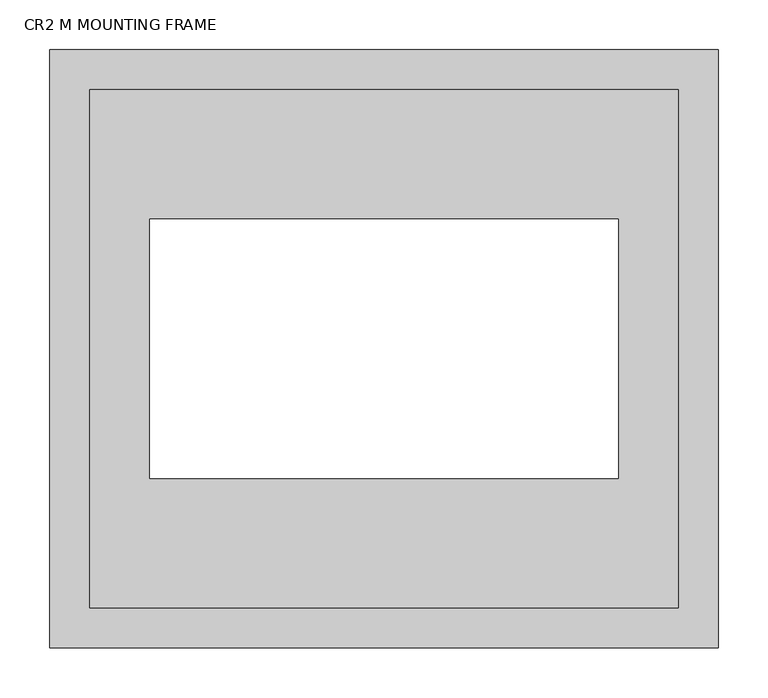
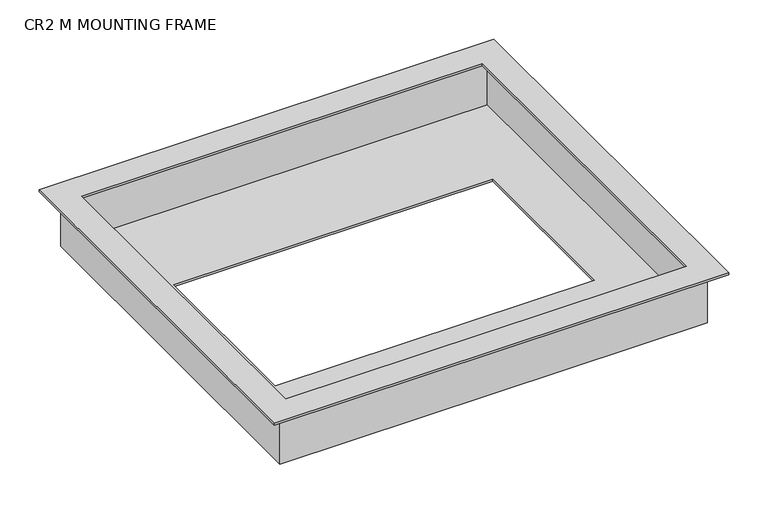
"""IFC4 building model written with IfcOpenShell, lengths in millimetres: light fixture geometry, Zumtobel CR2P MOUNTING FRAME : CR2 M MOUNTING FRAME."""

from ifc_helpers import new_model, si_unit, origin, place, context, project, spatial, faceted_brep, source, transform, mapped, element, save


def cr2_m_mounting_frame_06b28d9d(model_context):
    return source(origin(), model_context, "Body", "Brep", [
        faceted_brep([(64.5000048, -300.0, 2.9939766), (64.5000048, -300.0, 0.0), (734.5000048, -300.0, 0.0), (734.5000048, -300.0, 2.9939766), (87.5000048, -277.0, 0.0), (711.5000048, -277.0, 0.0), (711.5000048, -277.0, -77.0), (87.5000048, -277.0, -77.0), (84.5000048, -280.0, -80.0060234), (714.5000048, -280.0, -80.0060234), (714.5000048, -280.0, -77.0), (714.5000048, -280.0, 0.0), (84.5000048, -280.0, 0.0), (84.5000048, -280.0, -77.0), (734.5000048, 300.0, 0.0), (734.5000048, 300.0, 2.9939766), (711.5000048, 277.0, 0.0), (711.5000048, 277.0, -77.0), (714.5000048, 280.0, -80.0060234), (714.5000048, 280.0, -77.0), (714.5000048, 280.0, 0.0), (64.5000048, 300.0, 0.0), (64.5000048, 300.0, 2.9939766), (87.5000048, 277.0, 0.0), (87.5000048, 277.0, -77.0), (84.5000048, 280.0, -80.0060234), (84.5000048, 280.0, -77.0), (84.5000048, 280.0, 0.0), (104.5000048, -260.0, 2.9939766), (104.5000048, 260.0, 2.9939766), (694.5000048, 260.0, 2.9939766), (694.5000048, -260.0, 2.9939766), (634.5000048, 130.0, -80.0060234), (164.5000048, 130.0, -80.0060234), (164.5000048, -130.0, -80.0060234), (634.5000048, -130.0, -80.0060234), (694.5000048, -260.0, 0.0), (104.5000048, -260.0, 0.0), (694.5000048, 260.0, 0.0), (104.5000048, 260.0, 0.0), (634.5000048, 130.0, -77.0), (634.5000048, -130.0, -77.0), (164.5000048, -130.0, -77.0), (164.5000048, 130.0, -77.0)], [[[0, 1, 2, 3]], [[4, 5, 6, 7]], [[8, 9, 10, 11, 12, 13]], [[3, 2, 14, 15]], [[5, 16, 17, 6]], [[9, 18, 19, 20, 11, 10]], [[15, 14, 21, 22]], [[16, 23, 24, 17]], [[18, 25, 26, 27, 20, 19]], [[1, 0, 22, 21]], [[0, 3, 15, 22], [28, 29, 30, 31]], [[23, 4, 7, 24]], [[9, 8, 25, 18], [32, 33, 34, 35]], [[25, 8, 13, 12, 27, 26]], [[2, 1, 21, 14], [12, 11, 20, 27]], [[28, 31, 36, 37]], [[31, 30, 38, 36]], [[30, 29, 39, 38]], [[29, 28, 37, 39]], [[5, 4, 23, 16], [37, 36, 38, 39]], [[7, 6, 17, 24], [40, 41, 42, 43]], [[41, 40, 32, 35]], [[42, 41, 35, 34]], [[43, 42, 34, 33]], [[40, 43, 33, 32]]]),
    ])


if __name__ == "__main__":
    model = new_model("IFC4")
    model_context = context("Model", 3, world=origin())
    ifc_project = project(units=[si_unit("LENGTHUNIT", "METRE", prefix="MILLI")], contexts=[model_context])
    site = spatial("IfcSite", under=ifc_project)
    building = spatial("IfcBuilding", under=site)
    placement = place(None, origin())
    cr2_m_mounting_frame_shape = cr2_m_mounting_frame_06b28d9d(model_context)
    element("IfcLightFixture", 1, ObjectType="Zumtobel CR2P MOUNTING FRAME : CR2 M MOUNTING FRAME", at=placement, inside=building, context=model_context, shape_type="MappedRepresentation", body=[
        mapped(cr2_m_mounting_frame_shape, transform((0.0, 0.0, 0.0), x_axis=(1.0, 0.0, 0.0), y_axis=(0.0, 1.0, 0.0), z_axis=(0.0, 0.0, 1.0))),
    ])
    save(model, "model.ifc")
